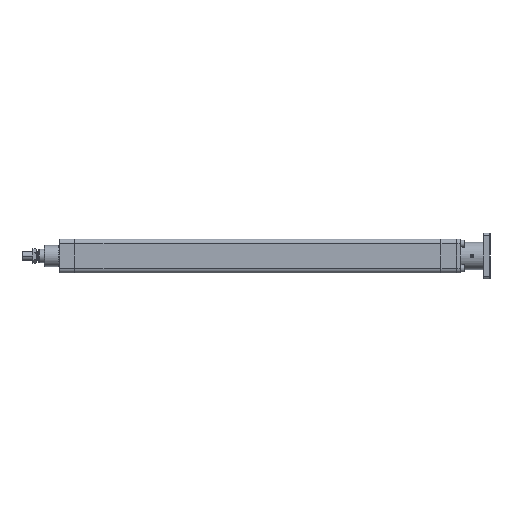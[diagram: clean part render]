
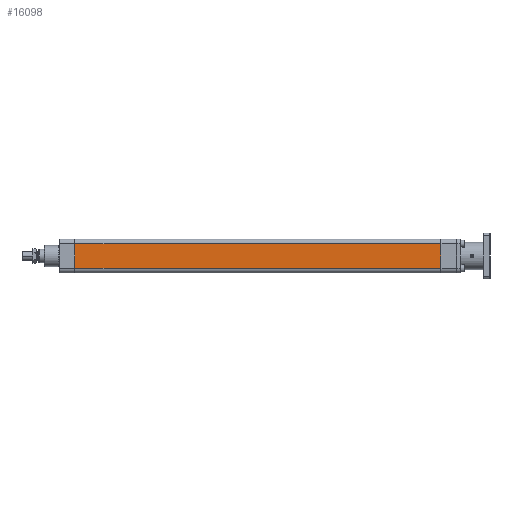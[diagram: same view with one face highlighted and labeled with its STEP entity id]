
A CAD part, left-side view. The second image highlights one B-rep face of the part: STEP entity #16098.
In plain terms, the highlighted planar face has unit normal (-1, 0, 0).
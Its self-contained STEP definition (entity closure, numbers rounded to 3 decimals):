
#180 = VERTEX_POINT ( 'NONE', #23772 ) ;
#181 = EDGE_CURVE ( 'NONE', #180, #188, #23771, .T. ) ;
#188 = VERTEX_POINT ( 'NONE', #23815 ) ;
#13003 = EDGE_CURVE ( 'NONE', #16106, #180, #23890, .T. ) ;
#16098 = ADVANCED_FACE ( 'NONE', ( #24054 ), #24053, .F. ) ;
#16099 = ORIENTED_EDGE ( 'NONE', *, *, #16107, .F. ) ;
#16100 = VERTEX_POINT ( 'NONE', #24048 ) ;
#16101 = EDGE_LOOP ( 'NONE', ( #16103, #16112, #16099, #16102 ) ) ;
#16102 = ORIENTED_EDGE ( 'NONE', *, *, #13003, .T. ) ;
#16103 = ORIENTED_EDGE ( 'NONE', *, *, #181, .T. ) ;
#16106 = VERTEX_POINT ( 'NONE', #24106 ) ;
#16107 = EDGE_CURVE ( 'NONE', #16106, #16100, #24105, .T. ) ;
#16109 = EDGE_CURVE ( 'NONE', #188, #16100, #24096, .T. ) ;
#16112 = ORIENTED_EDGE ( 'NONE', *, *, #16109, .T. ) ;
#23768 = DIRECTION ( 'NONE',  ( 0., -1., 0. ) ) ;
#23769 = VECTOR ( 'NONE', #23768, 1000. ) ;
#23770 = CARTESIAN_POINT ( 'NONE',  ( -32., 690., -23.25 ) ) ;
#23771 = LINE ( 'NONE', #23770, #23769 ) ;
#23772 = CARTESIAN_POINT ( 'NONE',  ( -32., 689.7, -23.25 ) ) ;
#23815 = CARTESIAN_POINT ( 'NONE',  ( -32., 0.3, -23.25 ) ) ;
#23887 = DIRECTION ( 'NONE',  ( 0., 0., -1. ) ) ;
#23888 = VECTOR ( 'NONE', #23887, 1000. ) ;
#23889 = CARTESIAN_POINT ( 'NONE',  ( -32., 689.7, -23.25 ) ) ;
#23890 = LINE ( 'NONE', #23889, #23888 ) ;
#24048 = CARTESIAN_POINT ( 'NONE',  ( -32., 0.3, 23.25 ) ) ;
#24049 = DIRECTION ( 'NONE',  ( 0., 0., -1. ) ) ;
#24050 = DIRECTION ( 'NONE',  ( 1., 0., 0. ) ) ;
#24051 = CARTESIAN_POINT ( 'NONE',  ( -32., 690., -23.25 ) ) ;
#24052 = AXIS2_PLACEMENT_3D ( 'NONE', #24051, #24050, #24049 ) ;
#24053 = PLANE ( 'NONE',  #24052 ) ;
#24054 = FACE_OUTER_BOUND ( 'NONE', #16101, .T. ) ;
#24093 = DIRECTION ( 'NONE',  ( 0., 0., 1. ) ) ;
#24094 = VECTOR ( 'NONE', #24093, 1000. ) ;
#24095 = CARTESIAN_POINT ( 'NONE',  ( -32., 0.3, 23.25 ) ) ;
#24096 = LINE ( 'NONE', #24095, #24094 ) ;
#24102 = DIRECTION ( 'NONE',  ( 0., -1., 0. ) ) ;
#24103 = VECTOR ( 'NONE', #24102, 1000. ) ;
#24104 = CARTESIAN_POINT ( 'NONE',  ( -32., 690., 23.25 ) ) ;
#24105 = LINE ( 'NONE', #24104, #24103 ) ;
#24106 = CARTESIAN_POINT ( 'NONE',  ( -32., 689.7, 23.25 ) ) ;
